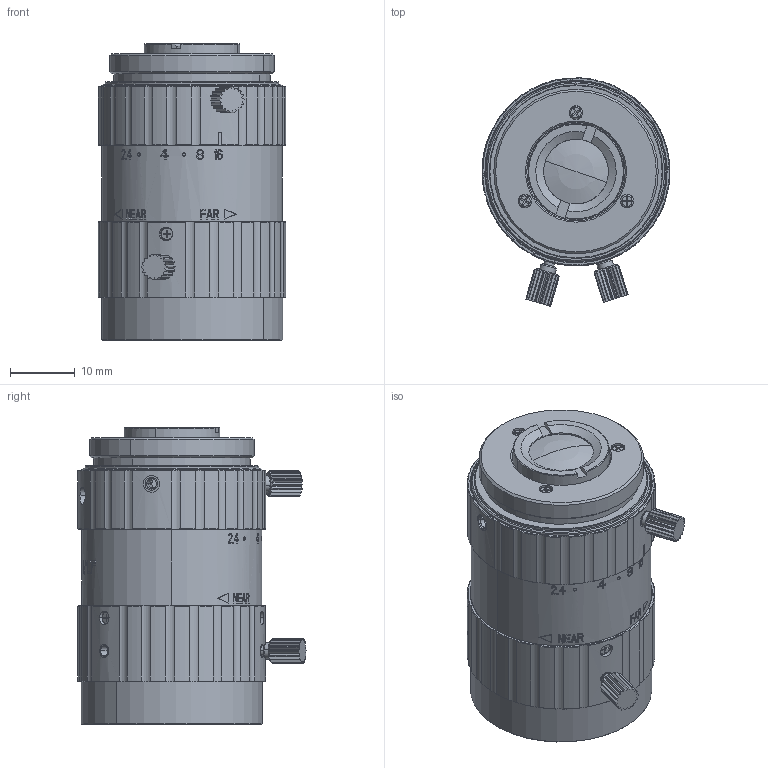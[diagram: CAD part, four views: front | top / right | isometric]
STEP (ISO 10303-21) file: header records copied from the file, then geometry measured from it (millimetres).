
FILE_DESCRIPTION((''),'2;1');
FILE_NAME('FA0813A00_ASM','2023-02-03T09:17:21',('user'),(''),'CREO PARAMETRIC BY PTC INC, 2018020','CREO PARAMETRIC BY PTC INC, 2018020','');
FILE_SCHEMA(('CONFIG_CONTROL_DESIGN'));
Products named in the file (76): GB1924A-503_AF0; GB1924A-502_AF0; MB1850-02-03__A; MB075-02-02_AF0; MB075-00-03_AF0_ASM; MB075-02-02_AF1; MB075-00-03_AF1_ASM; MB075-02-02_AF2; MB075-00-03_AF2_ASM; MB075-02-02_AF3; MB075-00-03_AF3_ASM; MB075-02-02_AF4; MB075-00-03_AF4_ASM; GB1924A-536_AF0; MR128-02-01_AF0; GB1924A-307_AF0; GB1924A-306_AF0; GB1924A-309_AF0; GB1924A-308_AF0; GB1924A-514_AF0; GB1924A-310_AF0; GB1924A-515_AF0; FA0813A-202_AF0_ASM; GB1924A-501_AF0; GB1924A-305_AF0; GB1924A-513_AF0; GB1924A-304_AF0; GB1924A-303_AF0; GB1924A-512_AF0; GB1924A-302_AF0; GB1924A-301_AF0; GB1924A-511_AF0; FA0813A-201_AF0_ASM; ML7510A-522_AF0; ML7510A-522_AF1; M14352501_AF0; M14352501_AF1; ML7510A-522_AF2; ML7510A-522_AF3; M14352501_AF2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
Assembly tree (75 placements, depth 5):
  FA0813A00_ASM
    GB1924A-503_AF0
    FA0813A-202_AF0_ASM
      GB1924A-502_AF0
      MB075-00-03_AF0_ASM
        MB075-00-03_AF0_ASM
          MB1850-02-03__A
          MB075-02-02_AF0
          MB1850-02-03__A
      MB075-00-03_AF1_ASM
        MB075-00-03_AF1_ASM
          MB1850-02-03__A
          MB075-02-02_AF1
          MB1850-02-03__A
      MB075-00-03_AF2_ASM
        MB075-00-03_AF2_ASM
          MB1850-02-03__A
          MB075-02-02_AF2
          MB1850-02-03__A
      MB075-00-03_AF3_ASM
        MB075-00-03_AF3_ASM
          MB1850-02-03__A
          MB075-02-02_AF3
          MB1850-02-03__A
      MB075-00-03_AF4_ASM
        MB075-00-03_AF4_ASM
          MB1850-02-03__A
          MB075-02-02_AF4
          MB1850-02-03__A
      GB1924A-536_AF0
      MR128-02-01_AF0
      GB1924A-307_AF0
      GB1924A-306_AF0
      GB1924A-309_AF0
      GB1924A-308_AF0
      GB1924A-514_AF0
      GB1924A-310_AF0
      GB1924A-515_AF0
    FA0813A-201_AF0_ASM
      GB1924A-501_AF0
      GB1924A-305_AF0
      GB1924A-513_AF0
      GB1924A-304_AF0
      GB1924A-303_AF0
      GB1924A-512_AF0
      GB1924A-302_AF0
      GB1924A-301_AF0
      GB1924A-511_AF0
    ML7510A-522_AF0
    ML7510A-522_AF1
    M14352501_AF0
    M14352501_AF1
    ML7510A-522_AF2
    ML7510A-522_AF3
    M14352501_AF2
    M14352501_AF3
    ML7510A-522_AF4
    ML7510A-522_AF5
    M14352501_AF4
    M14352501_AF5
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Bounding box: 29 x 35.23 x 45.8 mm (x, y, z)
Volume: 8334.1 mm3; surface area: 16403.3 mm2
Topology: 22 solids, 47 shells, 1477 faces, 3863 edges, 2517 vertices
Faces by surface type: plane 469, cylinder 455, bspline 283, cone 240, torus 26, sphere 4
Entity records: 61656 total; most frequent: CARTESIAN_POINT 25353, ORIENTED_EDGE 7570, DIRECTION 6832, EDGE_CURVE 3855, AXIS2_PLACEMENT_3D 2634, VERTEX_POINT 2517, EDGE_LOOP 1636, VECTOR 1564
